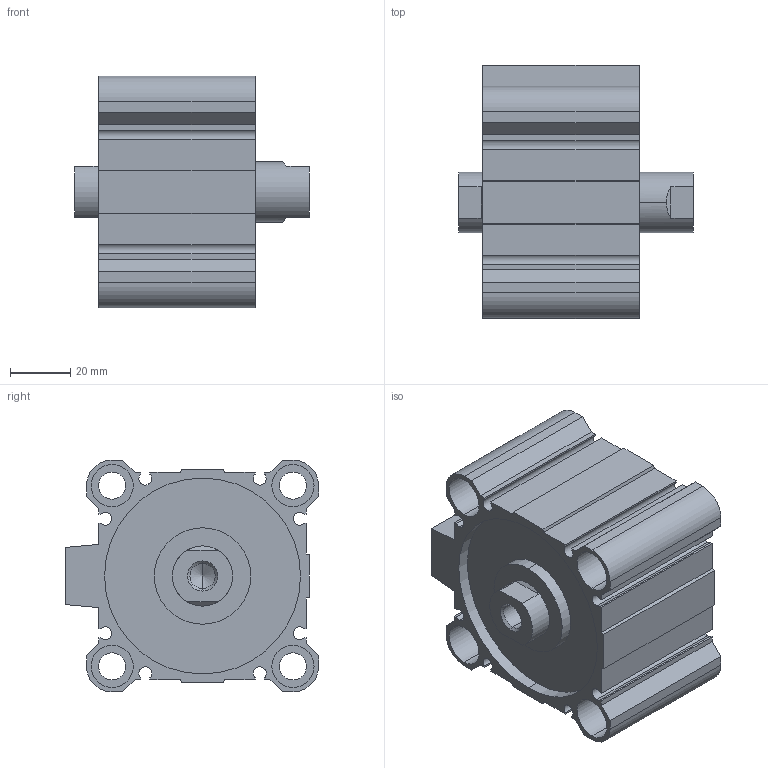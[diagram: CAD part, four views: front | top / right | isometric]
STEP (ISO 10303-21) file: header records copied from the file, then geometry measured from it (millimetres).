
FILE_DESCRIPTION (( 'STEP AP203' ), '1' );
FILE_NAME ('CCMB63-10F-P.STEP', '2020-08-05T11:45:31', ( '' ), ( '' ), 'SwSTEP 2.0', 'SolidWorks 2019', '' );
FILE_SCHEMA (( 'CONFIG_CONTROL_DESIGN' ));
Length unit declared in the file: millimetre
Products named in the file (1): CCMB63-10F-P
Bounding box: 78 x 84 x 77 mm (x, y, z)
Volume: 206337.6 mm3; surface area: 68350.6 mm2
Topology: 2 solids, 2 shells, 176 faces, 450 edges, 294 vertices
Faces by surface type: plane 90, cylinder 74, cone 12
Entity records: 5421 total; most frequent: DIRECTION 948, CARTESIAN_POINT 941, ORIENTED_EDGE 892, EDGE_CURVE 446, AXIS2_PLACEMENT_3D 333, VERTEX_POINT 294, LINE 282, VECTOR 282
